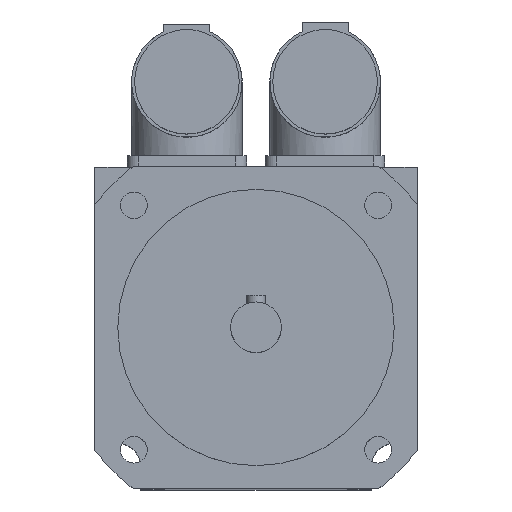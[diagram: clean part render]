
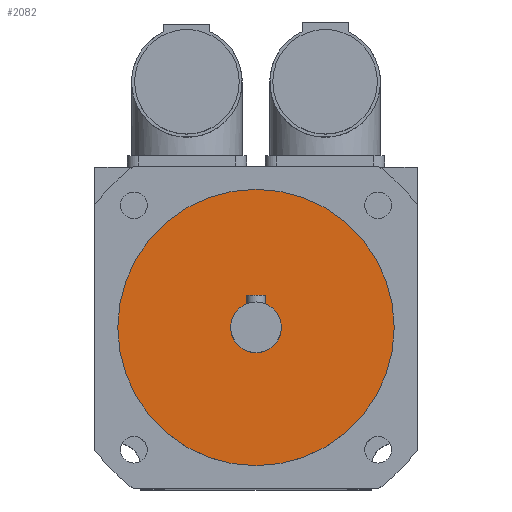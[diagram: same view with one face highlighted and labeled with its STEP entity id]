
A CAD part, top view. The second image highlights one B-rep face of the part: STEP entity #2082.
In plain terms, the highlighted planar face has unit normal (0, 0, 1).
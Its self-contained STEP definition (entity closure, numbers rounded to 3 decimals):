
#36=FACE_BOUND('',#359,.T.);
#61=CIRCLE('',#2206,5.5);
#62=CIRCLE('',#2209,30.);
#234=FACE_OUTER_BOUND('',#358,.T.);
#358=EDGE_LOOP('',(#1420));
#359=EDGE_LOOP('',(#1421));
#878=VERTEX_POINT('',#3179);
#879=VERTEX_POINT('',#3183);
#1092=EDGE_CURVE('',#878,#878,#61,.T.);
#1093=EDGE_CURVE('',#879,#879,#62,.T.);
#1420=ORIENTED_EDGE('',*,*,#1093,.T.);
#1421=ORIENTED_EDGE('',*,*,#1092,.T.);
#2019=PLANE('',#2211);
#2082=ADVANCED_FACE('',(#234,#36),#2019,.T.);
#2206=AXIS2_PLACEMENT_3D('',#3180,#2468,#2469);
#2209=AXIS2_PLACEMENT_3D('',#3184,#2474,#2475);
#2211=AXIS2_PLACEMENT_3D('',#3187,#2478,#2479);
#2468=DIRECTION('center_axis',(0.,0.,-1.));
#2469=DIRECTION('ref_axis',(-1.,0.,0.));
#2474=DIRECTION('center_axis',(0.,0.,1.));
#2475=DIRECTION('ref_axis',(-1.,0.,0.));
#2478=DIRECTION('center_axis',(0.,0.,1.));
#2479=DIRECTION('ref_axis',(1.,0.,0.));
#3179=CARTESIAN_POINT('',(5.5,0.,128.));
#3180=CARTESIAN_POINT('Origin',(0.,0.,128.));
#3183=CARTESIAN_POINT('',(30.,0.,128.));
#3184=CARTESIAN_POINT('Origin',(0.,0.,128.));
#3187=CARTESIAN_POINT('Origin',(0.,0.,
128.));
